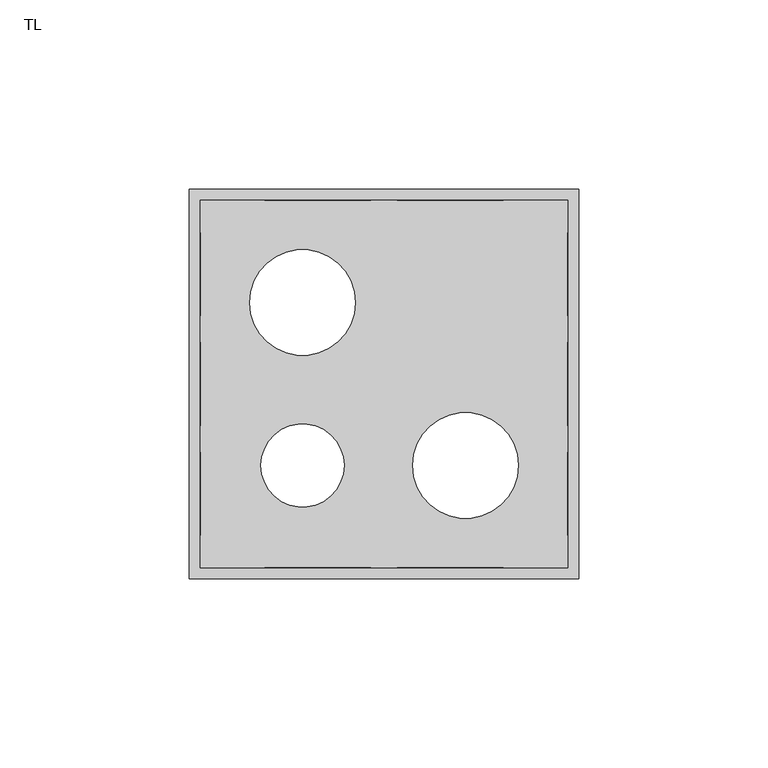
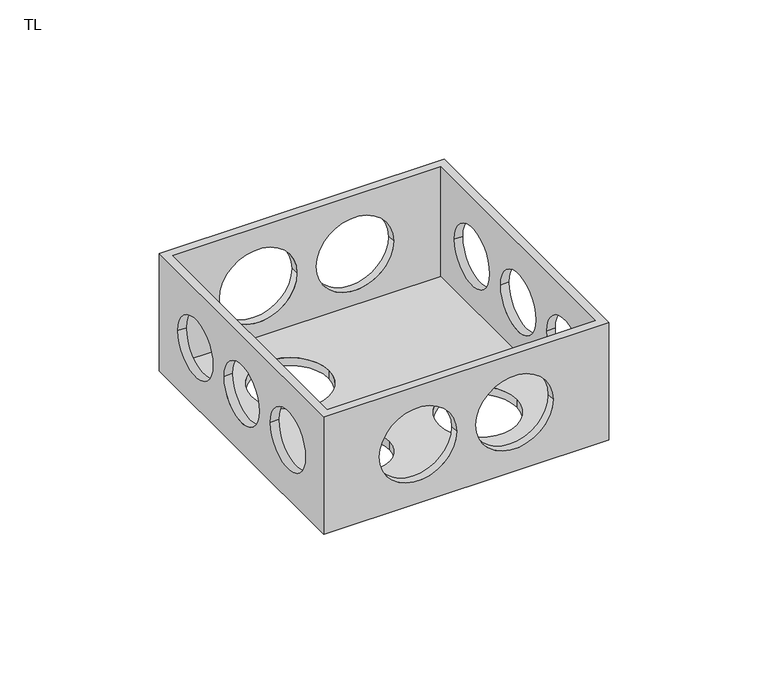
"""IFC4 building model written with IfcOpenShell, lengths in millimetres: cable carrier fitting geometry, PavcoWavin_ConduitFittings_CajaDoble_Multipuerto : TL."""

from ifc_helpers import new_model, si_unit, frame, origin, place, context, project, spatial, polyline, circle_curve, source, transform, mapped, element, save
from ifc_brep_helpers import plane_surface, revolved_surface, advanced_brep


def tl_ba489bf2(model_context):
    return source(origin(), model_context, "Body", "AdvancedBrep", [
        advanced_brep(
        [(51.55, 51.55, 22.5), (-51.55, 51.55, 22.5), (-51.55, -51.55, 22.5), (51.55, -51.55, 22.5), (48.55, 48.55, 22.5), (48.55, -48.55, 22.5), (-48.55, -48.55, 22.5), (-48.55, 48.55, 22.5), (51.55, 51.55, -22.5), (51.55, -51.55, -22.5), (-51.55, -51.55, -22.5), (-51.55, 51.55, -22.5), (-35.55, 21.55, -22.5), (-7.55, 21.55, -22.5), (-32.55, -21.55, -22.5), (-10.55, -21.55, -22.5), (7.55, -21.55, -22.5), (35.55, -21.55, -22.5), (-31.5, 51.55, 0.0), (-3.5, 51.55, 0.0), (3.5, 51.55, 0.0), (31.5, 51.55, 0.0), (-51.55, -11.0, 0.0), (-51.55, 11.0, 0.0), (-51.55, -40.0, 0.0), (-51.55, -18.0, 0.0), (-51.55, 18.0, 0.0), (-51.55, 40.0, 0.0), (-3.5, -51.55, 0.0), (-31.5, -51.55, 0.0), (31.5, -51.55, 0.0), (3.5, -51.55, 0.0), (51.55, 11.0, 0.0), (51.55, -11.0, 0.0), (51.55, -18.0, 0.0), (51.55, -40.0, 0.0), (51.55, 40.0, 0.0), (51.55, 18.0, 0.0), (48.55, -48.55, -19.5), (48.55, 48.55, -19.5), (-48.55, 48.55, -19.5), (-48.55, -48.55, -19.5), (-35.55, 21.55, -19.5), (-7.55, 21.55, -19.5), (-32.55, -21.55, -19.5), (-10.55, -21.55, -19.5), (7.55, -21.55, -19.5), (35.55, -21.55, -19.5), (48.55, -11.0, 0.0), (48.55, 11.0, 0.0), (48.55, -40.0, 0.0), (48.55, -18.0, 0.0), (48.55, 18.0, 0.0), (48.55, 40.0, 0.0), (-3.5, 48.55, 0.0), (-31.5, 48.55, 0.0), (31.5, 48.55, 0.0), (3.5, 48.55, 0.0), (-48.55, 11.0, 0.0), (-48.55, -11.0, 0.0), (-48.55, -18.0, 0.0), (-48.55, -40.0, 0.0), (-48.55, 40.0, 0.0), (-48.55, 18.0, 0.0), (-31.5, -48.55, 0.0), (-3.5, -48.55, 0.0), (3.5, -48.55, 0.0), (31.5, -48.55, 0.0)],
        [
            (0, 1),
            (1, 2),
            (2, 3),
            (3, 0),
            (4, 5),
            (5, 6),
            (6, 7),
            (7, 4),
            (8, 9),
            (9, 10),
            (10, 11),
            (11, 8),
            (12, 13, circle_curve(frame((-21.55, 21.55, -22.5), z_axis=(0.0, 0.0, 1.0), x_axis=(1.0, 0.0, 0.0)), 14.0)),
            (13, 12, circle_curve(frame((-21.55, 21.55, -22.5), z_axis=(0.0, 0.0, 1.0), x_axis=(1.0, 0.0, 0.0)), 14.0)),
            (14, 15, circle_curve(frame((-21.55, -21.55, -22.5), z_axis=(0.0, 0.0, 1.0), x_axis=(1.0, 0.0, 0.0)), 11.0)),
            (15, 14, circle_curve(frame((-21.55, -21.55, -22.5), z_axis=(0.0, 0.0, 1.0), x_axis=(1.0, 0.0, 0.0)), 11.0)),
            (16, 17, circle_curve(frame((21.55, -21.55, -22.5), z_axis=(0.0, 0.0, 1.0), x_axis=(1.0, 0.0, 0.0)), 14.0)),
            (17, 16, circle_curve(frame((21.55, -21.55, -22.5), z_axis=(0.0, 0.0, 1.0), x_axis=(1.0, 0.0, 0.0)), 14.0)),
            (0, 8),
            (11, 1),
            (18, 19, circle_curve(frame((-17.5, 51.55, 0.0), z_axis=(0.0, -1.0, 0.0), x_axis=(1.0, 0.0, 0.0)), 14.0)),
            (19, 18, circle_curve(frame((-17.5, 51.55, 0.0), z_axis=(0.0, -1.0, 0.0), x_axis=(1.0, 0.0, 0.0)), 14.0)),
            (20, 21, circle_curve(frame((17.5, 51.55, 0.0), z_axis=(0.0, -1.0, 0.0), x_axis=(1.0, 0.0, 0.0)), 14.0)),
            (21, 20, circle_curve(frame((17.5, 51.55, 0.0), z_axis=(0.0, -1.0, 0.0), x_axis=(1.0, 0.0, 0.0)), 14.0)),
            (10, 2),
            (22, 23, circle_curve(frame((-51.55, 0.0, 0.0), z_axis=(1.0, 0.0, 0.0), x_axis=(0.0, 1.0, 0.0)), 11.0)),
            (23, 22, circle_curve(frame((-51.55, 0.0, 0.0), z_axis=(1.0, 0.0, 0.0), x_axis=(0.0, 1.0, 0.0)), 11.0)),
            (24, 25, circle_curve(frame((-51.55, -29.0, 0.0), z_axis=(1.0, 0.0, 0.0), x_axis=(0.0, 1.0, 0.0)), 11.0)),
            (25, 24, circle_curve(frame((-51.55, -29.0, 0.0), z_axis=(1.0, 0.0, 0.0), x_axis=(0.0, 1.0, 0.0)), 11.0)),
            (26, 27, circle_curve(frame((-51.55, 29.0, 0.0), z_axis=(1.0, 0.0, 0.0), x_axis=(0.0, 1.0, 0.0)), 11.0)),
            (27, 26, circle_curve(frame((-51.55, 29.0, 0.0), z_axis=(1.0, 0.0, 0.0), x_axis=(0.0, 1.0, 0.0)), 11.0)),
            (9, 3),
            (28, 29, circle_curve(frame((-17.5, -51.55, 0.0), z_axis=(0.0, 1.0, 0.0), x_axis=(1.0, 0.0, 0.0)), 14.0)),
            (29, 28, circle_curve(frame((-17.5, -51.55, 0.0), z_axis=(0.0, 1.0, 0.0), x_axis=(1.0, 0.0, 0.0)), 14.0)),
            (30, 31, circle_curve(frame((17.5, -51.55, 0.0), z_axis=(0.0, 1.0, 0.0), x_axis=(1.0, 0.0, 0.0)), 14.0)),
            (31, 30, circle_curve(frame((17.5, -51.55, 0.0), z_axis=(0.0, 1.0, 0.0), x_axis=(1.0, 0.0, 0.0)), 14.0)),
            (32, 33, circle_curve(frame((51.55, 0.0, 0.0), z_axis=(-1.0, 0.0, 0.0), x_axis=(0.0, 1.0, 0.0)), 11.0)),
            (33, 32, circle_curve(frame((51.55, 0.0, 0.0), z_axis=(-1.0, 0.0, 0.0), x_axis=(0.0, 1.0, 0.0)), 11.0)),
            (34, 35, circle_curve(frame((51.55, -29.0, 0.0), z_axis=(-1.0, 0.0, 0.0), x_axis=(0.0, 1.0, 0.0)), 11.0)),
            (35, 34, circle_curve(frame((51.55, -29.0, 0.0), z_axis=(-1.0, 0.0, 0.0), x_axis=(0.0, 1.0, 0.0)), 11.0)),
            (36, 37, circle_curve(frame((51.55, 29.0, 0.0), z_axis=(-1.0, 0.0, 0.0), x_axis=(0.0, 1.0, 0.0)), 11.0)),
            (37, 36, circle_curve(frame((51.55, 29.0, 0.0), z_axis=(-1.0, 0.0, 0.0), x_axis=(0.0, 1.0, 0.0)), 11.0)),
            (38, 39),
            (39, 40),
            (40, 41),
            (41, 38),
            (42, 43, circle_curve(frame((-21.55, 21.55, -19.5), z_axis=(0.0, 0.0, -1.0), x_axis=(1.0, 0.0, 0.0)), 14.0)),
            (43, 42, circle_curve(frame((-21.55, 21.55, -19.5), z_axis=(0.0, 0.0, -1.0), x_axis=(1.0, 0.0, 0.0)), 14.0)),
            (44, 45, circle_curve(frame((-21.55, -21.55, -19.5), z_axis=(0.0, 0.0, -1.0), x_axis=(1.0, 0.0, 0.0)), 11.0)),
            (45, 44, circle_curve(frame((-21.55, -21.55, -19.5), z_axis=(0.0, 0.0, -1.0), x_axis=(1.0, 0.0, 0.0)), 11.0)),
            (46, 47, circle_curve(frame((21.55, -21.55, -19.5), z_axis=(0.0, 0.0, -1.0), x_axis=(1.0, 0.0, 0.0)), 14.0)),
            (47, 46, circle_curve(frame((21.55, -21.55, -19.5), z_axis=(0.0, 0.0, -1.0), x_axis=(1.0, 0.0, 0.0)), 14.0)),
            (38, 5),
            (4, 39),
            (48, 49, circle_curve(frame((48.55, 0.0, 0.0), z_axis=(1.0, 0.0, 0.0), x_axis=(0.0, 1.0, 0.0)), 11.0)),
            (49, 48, circle_curve(frame((48.55, 0.0, 0.0), z_axis=(1.0, 0.0, 0.0), x_axis=(0.0, 1.0, 0.0)), 11.0)),
            (50, 51, circle_curve(frame((48.55, -29.0, 0.0), z_axis=(1.0, 0.0, 0.0), x_axis=(0.0, 1.0, 0.0)), 11.0)),
            (51, 50, circle_curve(frame((48.55, -29.0, 0.0), z_axis=(1.0, 0.0, 0.0), x_axis=(0.0, 1.0, 0.0)), 11.0)),
            (52, 53, circle_curve(frame((48.55, 29.0, 0.0), z_axis=(1.0, 0.0, 0.0), x_axis=(0.0, 1.0, 0.0)), 11.0)),
            (53, 52, circle_curve(frame((48.55, 29.0, 0.0), z_axis=(1.0, 0.0, 0.0), x_axis=(0.0, 1.0, 0.0)), 11.0)),
            (7, 40),
            (54, 55, circle_curve(frame((-17.5, 48.55, 0.0), z_axis=(0.0, 1.0, 0.0), x_axis=(1.0, 0.0, 0.0)), 14.0)),
            (55, 54, circle_curve(frame((-17.5, 48.55, 0.0), z_axis=(0.0, 1.0, 0.0), x_axis=(1.0, 0.0, 0.0)), 14.0)),
            (56, 57, circle_curve(frame((17.5, 48.55, 0.0), z_axis=(0.0, 1.0, 0.0), x_axis=(1.0, 0.0, 0.0)), 14.0)),
            (57, 56, circle_curve(frame((17.5, 48.55, 0.0), z_axis=(0.0, 1.0, 0.0), x_axis=(1.0, 0.0, 0.0)), 14.0)),
            (6, 41),
            (58, 59, circle_curve(frame((-48.55, 0.0, 0.0), z_axis=(-1.0, 0.0, 0.0), x_axis=(0.0, 1.0, 0.0)), 11.0)),
            (59, 58, circle_curve(frame((-48.55, 0.0, 0.0), z_axis=(-1.0, 0.0, 0.0), x_axis=(0.0, 1.0, 0.0)), 11.0)),
            (60, 61, circle_curve(frame((-48.55, -29.0, 0.0), z_axis=(-1.0, 0.0, 0.0), x_axis=(0.0, 1.0, 0.0)), 11.0)),
            (61, 60, circle_curve(frame((-48.55, -29.0, 0.0), z_axis=(-1.0, 0.0, 0.0), x_axis=(0.0, 1.0, 0.0)), 11.0)),
            (62, 63, circle_curve(frame((-48.55, 29.0, 0.0), z_axis=(-1.0, 0.0, 0.0), x_axis=(0.0, 1.0, 0.0)), 11.0)),
            (63, 62, circle_curve(frame((-48.55, 29.0, 0.0), z_axis=(-1.0, 0.0, 0.0), x_axis=(0.0, 1.0, 0.0)), 11.0)),
            (64, 65, circle_curve(frame((-17.5, -48.55, 0.0), z_axis=(0.0, -1.0, 0.0), x_axis=(1.0, 0.0, 0.0)), 14.0)),
            (65, 64, circle_curve(frame((-17.5, -48.55, 0.0), z_axis=(0.0, -1.0, 0.0), x_axis=(1.0, 0.0, 0.0)), 14.0)),
            (66, 67, circle_curve(frame((17.5, -48.55, 0.0), z_axis=(0.0, -1.0, 0.0), x_axis=(1.0, 0.0, 0.0)), 14.0)),
            (67, 66, circle_curve(frame((17.5, -48.55, 0.0), z_axis=(0.0, -1.0, 0.0), x_axis=(1.0, 0.0, 0.0)), 14.0)),
            (13, 43),
            (42, 12),
            (15, 45),
            (44, 14),
            (18, 55),
            (54, 19),
            (64, 29),
            (28, 65),
            (48, 33),
            (32, 49),
            (22, 59),
            (58, 23),
            (17, 47),
            (46, 16),
            (20, 57),
            (56, 21),
            (66, 31),
            (30, 67),
            (50, 35),
            (34, 51),
            (24, 61),
            (60, 25),
            (52, 37),
            (36, 53),
            (26, 63),
            (62, 27),
        ],
        [
            plane_surface(frame((-51.55, 51.55, 22.5), z_axis=(0.0, 0.0, 1.0), x_axis=(-1.0, 0.0, 0.0))),
            plane_surface(frame((-51.55, 51.55, -22.5), z_axis=(0.0, 0.0, -1.0), x_axis=(1.0, 0.0, 0.0))),
            plane_surface(frame((51.55, 51.55, 22.5), z_axis=(0.0, 1.0, 0.0), x_axis=(0.0, 0.0, -1.0))),
            plane_surface(frame((-51.55, 51.55, 22.5), z_axis=(-1.0, 0.0, 0.0), x_axis=(0.0, 0.0, -1.0))),
            plane_surface(frame((-51.55, -51.55, 22.5), z_axis=(0.0, -1.0, 0.0), x_axis=(0.0, 0.0, -1.0))),
            plane_surface(frame((51.55, -51.55, 22.5), z_axis=(1.0, 0.0, 0.0), x_axis=(0.0, 0.0, -1.0))),
            plane_surface(frame((48.55, -48.55, -19.5), z_axis=(0.0, 0.0, 1.0), x_axis=(0.0, -1.0, 0.0))),
            plane_surface(frame((48.55, -48.55, 22.5), z_axis=(-1.0, 0.0, 0.0), x_axis=(0.0, 0.0, -1.0))),
            plane_surface(frame((48.55, 48.55, 22.5), z_axis=(0.0, -1.0, 0.0), x_axis=(0.0, 0.0, -1.0))),
            plane_surface(frame((-48.55, 48.55, 22.5), z_axis=(1.0, 0.0, 0.0), x_axis=(0.0, 0.0, -1.0))),
            plane_surface(frame((-48.55, -48.55, 22.5), z_axis=(0.0, 1.0, 0.0), x_axis=(0.0, 0.0, -1.0))),
            revolved_surface(polyline([(-7.550000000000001, 21.55, -22.5), (-7.550000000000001, 21.55, -19.5)]), (-21.55, 21.55, 0.0), (0.0, 0.0, -1.0)),
            revolved_surface(polyline([(-10.55, -21.55, -22.5), (-10.55, -21.55, -19.5)]), (-21.55, -21.55, 0.0), (0.0, 0.0, -1.0)),
            revolved_surface(polyline([(-3.5, 48.55, 0.0), (-3.5, 51.55, 0.0)]), (-17.5, 51.55, 0.0), (0.0, -1.0, 0.0)),
            revolved_surface(polyline([(-3.5, -51.55, 0.0), (-3.5, -48.55, 0.0)]), (-17.5, 51.55, 0.0), (0.0, -1.0, 0.0)),
            revolved_surface(polyline([(51.55, 11.0, 0.0), (48.55, 11.0, 0.0)]), (-51.5, 0.0, 0.0), (1.0, 0.0, 0.0)),
            revolved_surface(polyline([(-48.55, 11.0, 0.0), (-51.55, 11.0, 0.0)]), (-51.5, 0.0, 0.0), (1.0, 0.0, 0.0)),
            revolved_surface(polyline([(35.55, -21.55, -22.5), (35.55, -21.55, -19.5)]), (21.55, -21.55, 0.0), (0.0, 0.0, -1.0)),
            revolved_surface(polyline([(31.5, 48.55, 0.0), (31.5, 51.55, 0.0)]), (17.5, 0.0, 0.0), (0.0, -1.0, 0.0)),
            revolved_surface(polyline([(31.5, -51.55, 0.0), (31.5, -48.55, 0.0)]), (17.5, 0.0, 0.0), (0.0, -1.0, 0.0)),
            revolved_surface(polyline([(51.55, -18.0, 0.0), (48.55, -18.0, 0.0)]), (0.0, -29.0, 0.0), (1.0, 0.0, 0.0)),
            revolved_surface(polyline([(-48.55, -18.0, 0.0), (-51.55, -18.0, 0.0)]), (0.0, -29.0, 0.0), (1.0, 0.0, 0.0)),
            revolved_surface(polyline([(51.55, 40.0, 0.0), (48.55, 40.0, 0.0)]), (0.0, 29.0, 0.0), (1.0, 0.0, 0.0)),
            revolved_surface(polyline([(-48.55, 40.0, 0.0), (-51.55, 40.0, 0.0)]), (0.0, 29.0, 0.0), (1.0, 0.0, 0.0)),
        ],
        [
            (0, [[1, 2, 3, 4], [5, 6, 7, 8]]),
            (1, [[9, 10, 11, 12], [13, 14], [15, 16], [17, 18]]),
            (2, [[-1, 19, -12, 20], [21, 22], [23, 24]]),
            (3, [[-2, -20, -11, 25], [26, 27], [28, 29], [30, 31]]),
            (4, [[-3, -25, -10, 32], [33, 34], [35, 36]]),
            (5, [[-4, -32, -9, -19], [37, 38], [39, 40], [41, 42]]),
            (6, [[43, 44, 45, 46], [47, 48], [49, 50], [51, 52]]),
            (7, [[-43, 53, -5, 54], [55, 56], [57, 58], [59, 60]]),
            (8, [[-44, -54, -8, 61], [62, 63], [64, 65]]),
            (9, [[-45, -61, -7, 66], [67, 68], [69, 70], [71, 72]]),
            (10, [[-46, -66, -6, -53], [73, 74], [75, 76]]),
            (11, [[-14, 77, -47, 78]]),
            (11, [[-13, -78, -48, -77]]),
            (12, [[-16, 79, -49, 80]]),
            (12, [[-15, -80, -50, -79]]),
            (13, [[81, -62, 82, -21]]),
            (14, [[83, -33, 84, -73]]),
            (13, [[-81, -22, -82, -63]]),
            (14, [[-83, -74, -84, -34]]),
            (15, [[85, -37, 86, -55]]),
            (16, [[87, -67, 88, -26]]),
            (15, [[-85, -56, -86, -38]]),
            (16, [[-87, -27, -88, -68]]),
            (17, [[-18, 89, -51, 90]]),
            (17, [[-17, -90, -52, -89]]),
            (18, [[91, -64, 92, -23]]),
            (19, [[93, -35, 94, -75]]),
            (18, [[-91, -24, -92, -65]]),
            (19, [[-93, -76, -94, -36]]),
            (20, [[95, -39, 96, -57]]),
            (21, [[97, -69, 98, -28]]),
            (20, [[-95, -58, -96, -40]]),
            (21, [[-97, -29, -98, -70]]),
            (22, [[99, -41, 100, -59]]),
            (23, [[101, -71, 102, -30]]),
            (22, [[-99, -60, -100, -42]]),
            (23, [[-101, -31, -102, -72]]),
        ],
    ),
    ])


if __name__ == "__main__":
    model = new_model("IFC4")
    model_context = context("Model", 3, world=origin())
    ifc_project = project(units=[si_unit("LENGTHUNIT", "METRE", prefix="MILLI")], contexts=[model_context])
    site = spatial("IfcSite", under=ifc_project)
    building = spatial("IfcBuilding", under=site)
    placement = place(None, origin())
    tl_shape = tl_ba489bf2(model_context)
    element("IfcCableCarrierFitting", 1, ObjectType="PavcoWavin_ConduitFittings_CajaDoble_Multipuerto : TL", at=placement, inside=building, context=model_context, shape_type="MappedRepresentation", body=[
        mapped(tl_shape, transform((0.0, 0.0, 0.0), x_axis=(1.0, 0.0, 0.0), y_axis=(0.0, 1.0, 0.0), z_axis=(0.0, 0.0, 1.0))),
    ])
    save(model, "model.ifc")
